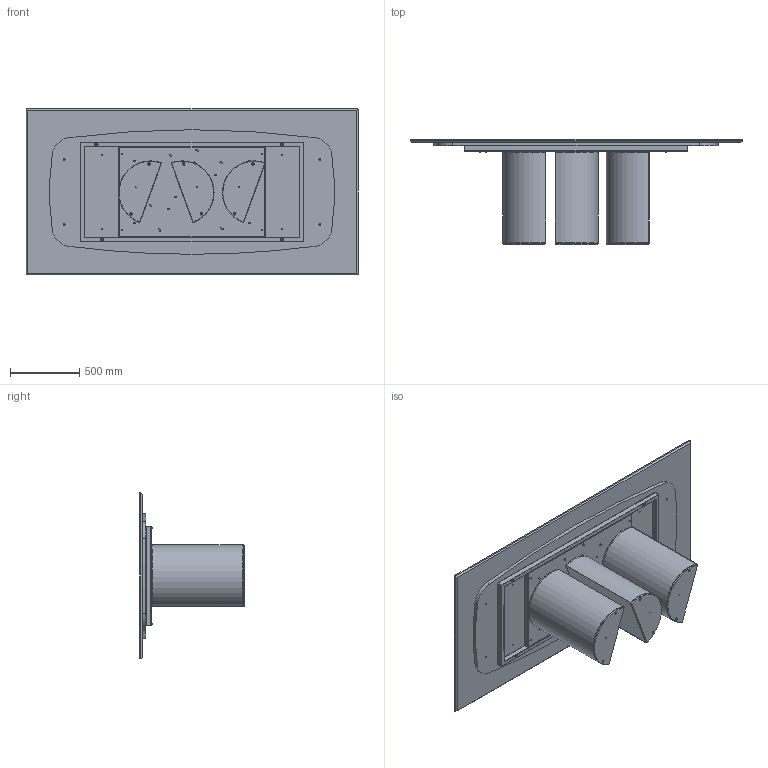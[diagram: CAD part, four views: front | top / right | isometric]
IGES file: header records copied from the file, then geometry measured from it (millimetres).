
Start section: SolidWorks IGES file using analytic representation for surfaces
Global section: file name: Y:\eforma\TECNICO\SOLIDWORKS\E-FORMA\1-TAVOLI\PLAI\02 parts\PL23M.IGS; native system: SolidWorks 2022; preprocessor: SolidWorks 2022; author: eforma.tech; date: 240807.155258; units: millimetre
Bounding box: 2400 x 759 x 1200 mm (x, y, z)
Volume: 113017612.1 mm3; surface area: 18088520.2 mm2
Topology: 45 solids, 45 shells, 1339 faces, 3047 edges, 1757 vertices
Faces by surface type: revolution 822, plane 517
